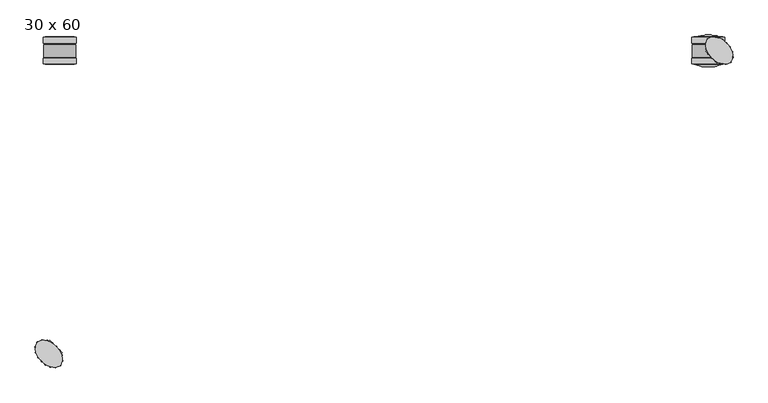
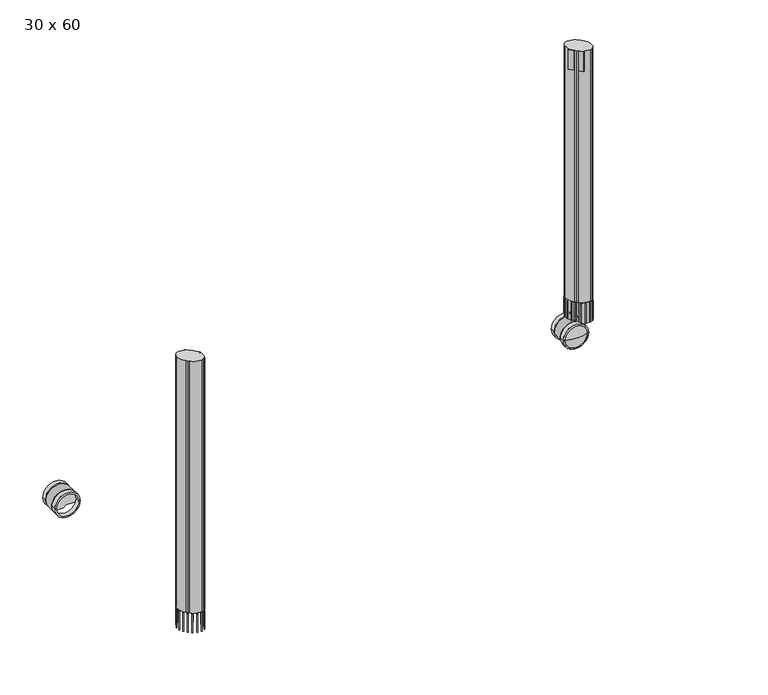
"""IFC4 building model written with IfcOpenShell, lengths in millimetres: furniture geometry, SmithSystem_AM_Desking_Education_Interchange_Student_Activity : 30 x 60."""

from ifc_helpers import new_model, si_unit, point, frame, frame_2d, origin, place, context, project, spatial, polyline, circle_curve, ellipse_curve, trimmed, segment, composite_curve, outline, extrude, source, transform, mapped, element, save
from ifc_brep_helpers import plane_surface, cylinder_surface, revolved_surface, advanced_brep


def furniture_30_x_60_e347a391(model_context):
    return source(origin(), model_context, "Body", "SolidModel", [
        extrude(outline(composite_curve([segment(polyline([(35.2157999, -716.8032652), (36.1138255, -717.7012908), (37.0118511, -718.5993164)]), True, "CONTINUOUS"), segment(trimmed(circle_curve(frame_2d((36.1138255, -717.7012908)), 1.27), [point((37.0118511, -718.5993164))], [point((35.2157999, -716.8032652))], False, "CARTESIAN"), True, "CONTINUOUS")], self_intersect=False)), frame((0.0, 0.0, 67.2639757), z_axis=(0.0, 0.0, 1.0), x_axis=(1.0, 0.0, 0.0)), (0.0, 0.0, 1.0), 52.9554897),
        extrude(outline(composite_curve([segment(polyline([(28.1764663, -677.4423306), (27.2784407, -678.3403563), (26.3804151, -679.2383819)]), True, "CONTINUOUS"), segment(trimmed(circle_curve(frame_2d((27.2784407, -678.3403563)), 1.27), [point((26.3804151, -679.2383819))], [point((28.1764663, -677.4423306))], False, "CARTESIAN"), True, "CONTINUOUS")], self_intersect=False)), frame((0.0, 0.0, 67.2639757), z_axis=(0.0, 0.0, 1.0), x_axis=(1.0, 0.0, 0.0)), (0.0, 0.0, 1.0), 52.9554897),
        extrude(outline(composite_curve([segment(trimmed(circle_curve(frame_2d((75.47476, -726.5366756)), 1.27), [point((76.3727856, -725.63865))], [point((74.5767344, -727.4347012))], False, "CARTESIAN"), True, "CONTINUOUS"), segment(polyline([(74.5767344, -727.4347012), (75.47476, -726.5366756), (76.3727856, -725.63865)]), True, "CONTINUOUS")], self_intersect=False)), frame((0.0, 0.0, 67.2639757), z_axis=(0.0, 0.0, 1.0), x_axis=(1.0, 0.0, 0.0)), (0.0, 0.0, 1.0), 52.9554897),
        extrude(outline(composite_curve([segment(trimmed(circle_curve(frame_2d((65.6084721, -730.6574596)), 1.27), [point((66.874417, -730.5560515))], [point((64.3425272, -730.7588676))], False, "CARTESIAN"), True, "CONTINUOUS"), segment(polyline([(64.3425272, -730.7588676), (65.6084721, -730.6574596), (66.874417, -730.5560515)]), True, "CONTINUOUS")], self_intersect=False)), frame((0.0, 0.0, 67.2639757), z_axis=(0.0, 0.0, 1.0), x_axis=(1.0, 0.0, 0.0)), (0.0, 0.0, 1.0), 52.9554897),
        extrude(outline(composite_curve([segment(trimmed(circle_curve(frame_2d((54.5655031, -729.7234059)), 1.27), [point((55.7954927, -730.039674))], [point((53.3355135, -729.4071377))], False, "CARTESIAN"), True, "CONTINUOUS"), segment(polyline([(53.3355135, -729.4071377), (54.5655031, -729.7234059), (55.7954927, -730.039674)]), True, "CONTINUOUS")], self_intersect=False)), frame((0.0, 0.0, 67.2639757), z_axis=(0.0, 0.0, 1.0), x_axis=(1.0, 0.0, 0.0)), (0.0, 0.0, 1.0), 52.9554897),
        extrude(outline(composite_curve([segment(trimmed(circle_curve(frame_2d((44.409403, -725.1239568)), 1.27), [point((45.4570451, -725.8418329))], [point((43.3617609, -724.4060807))], False, "CARTESIAN"), True, "CONTINUOUS"), segment(polyline([(43.3617609, -724.4060807), (44.409403, -725.1239568), (45.4570451, -725.8418329)]), True, "CONTINUOUS")], self_intersect=False)), frame((0.0, 0.0, 67.2639757), z_axis=(0.0, 0.0, 1.0), x_axis=(1.0, 0.0, 0.0)), (0.0, 0.0, 1.0), 52.9554897),
        extrude(outline(composite_curve([segment(polyline([(23.2590648, -686.9406993), (23.1576567, -688.2066442), (23.0562487, -689.4725891)]), True, "CONTINUOUS"), segment(trimmed(circle_curve(frame_2d((23.1576567, -688.2066442)), 1.27), [point((23.0562487, -689.4725891))], [point((23.2590648, -686.9406993))], False, "CARTESIAN"), True, "CONTINUOUS")], self_intersect=False)), frame((0.0, 0.0, 67.2639757), z_axis=(0.0, 0.0, 1.0), x_axis=(1.0, 0.0, 0.0)), (0.0, 0.0, 1.0), 52.9554897),
        extrude(outline(composite_curve([segment(polyline([(23.7754423, -698.0196236), (24.0917104, -699.2496132), (24.4079786, -700.4796028)]), True, "CONTINUOUS"), segment(trimmed(circle_curve(frame_2d((24.0917104, -699.2496132)), 1.27), [point((24.4079786, -700.4796028))], [point((23.7754423, -698.0196236))], False, "CARTESIAN"), True, "CONTINUOUS")], self_intersect=False)), frame((0.0, 0.0, 67.2639757), z_axis=(0.0, 0.0, 1.0), x_axis=(1.0, 0.0, 0.0)), (0.0, 0.0, 1.0), 52.9554897),
        extrude(outline(composite_curve([segment(polyline([(27.9732834, -708.3580712), (28.6911595, -709.4057133), (29.4090356, -710.4533554)]), True, "CONTINUOUS"), segment(trimmed(circle_curve(frame_2d((28.6911595, -709.4057133)), 1.27), [point((29.4090356, -710.4533554))], [point((27.9732834, -708.3580712))], False, "CARTESIAN"), True, "CONTINUOUS")], self_intersect=False)), frame((0.0, 0.0, 67.2639757), z_axis=(0.0, 0.0, 1.0), x_axis=(1.0, 0.0, 0.0)), (0.0, 0.0, 1.0), 52.9554897),
        extrude(outline(composite_curve([segment(trimmed(circle_curve(frame_2d((66.6393752, -687.175741)), 1.27), [point((65.7413496, -686.2777154))], [point((67.5374009, -688.0737667))], False, "CARTESIAN"), True, "CONTINUOUS"), segment(polyline([(67.5374009, -688.0737667), (66.6393752, -687.175741), (65.7413496, -686.2777154)]), True, "CONTINUOUS")], self_intersect=False)), frame((0.0, 0.0, 67.2639757), z_axis=(0.0, 0.0, 1.0), x_axis=(1.0, 0.0, 0.0)), (0.0, 0.0, 1.0), 52.9554897),
        extrude(outline(composite_curve([segment(polyline([(79.4941359, -717.9363325), (79.595544, -716.6703877), (79.696952, -715.4044428)]), True, "CONTINUOUS"), segment(trimmed(circle_curve(frame_2d((79.595544, -716.6703877)), 1.27), [point((79.696952, -715.4044428))], [point((79.4941359, -717.9363325))], False, "CARTESIAN"), True, "CONTINUOUS")], self_intersect=False)), frame((0.0, 0.0, 67.2639757), z_axis=(0.0, 0.0, 1.0), x_axis=(1.0, 0.0, 0.0)), (0.0, 0.0, 1.0), 52.9554897),
        extrude(outline(composite_curve([segment(polyline([(78.9777584, -706.8574083), (78.6614903, -705.6274187), (78.3452221, -704.397429)]), True, "CONTINUOUS"), segment(trimmed(circle_curve(frame_2d((78.6614903, -705.6274187)), 1.27), [point((78.3452221, -704.397429))], [point((78.9777584, -706.8574083))], False, "CARTESIAN"), True, "CONTINUOUS")], self_intersect=False)), frame((0.0, 0.0, 67.2639757), z_axis=(0.0, 0.0, 1.0), x_axis=(1.0, 0.0, 0.0)), (0.0, 0.0, 1.0), 52.9554897),
        extrude(outline(composite_curve([segment(polyline([(74.7799173, -696.5189606), (74.0620412, -695.4713185), (73.3441651, -694.4236765)]), True, "CONTINUOUS"), segment(trimmed(circle_curve(frame_2d((74.0620412, -695.4713185)), 1.27), [point((73.3441651, -694.4236765))], [point((74.7799173, -696.5189606))], False, "CARTESIAN"), True, "CONTINUOUS")], self_intersect=False)), frame((0.0, 0.0, 67.2639757), z_axis=(0.0, 0.0, 1.0), x_axis=(1.0, 0.0, 0.0)), (0.0, 0.0, 1.0), 52.9554897),
        extrude(outline(composite_curve([segment(trimmed(circle_curve(frame_2d((37.1447286, -674.2195723)), 1.27), [point((35.8787838, -674.3209803))], [point((38.4106735, -674.1181643))], False, "CARTESIAN"), True, "CONTINUOUS"), segment(polyline([(38.4106735, -674.1181643), (37.1447286, -674.2195723), (35.8787838, -674.3209803)]), True, "CONTINUOUS")], self_intersect=False)), frame((0.0, 0.0, 67.2639757), z_axis=(0.0, 0.0, 1.0), x_axis=(1.0, 0.0, 0.0)), (0.0, 0.0, 1.0), 52.9554897),
        extrude(outline(composite_curve([segment(trimmed(circle_curve(frame_2d((48.1876976, -675.153626)), 1.27), [point((46.957708, -674.8373578))], [point((49.4176872, -675.4698941))], False, "CARTESIAN"), True, "CONTINUOUS"), segment(polyline([(49.4176872, -675.4698941), (48.1876976, -675.153626), (46.957708, -674.8373578)]), True, "CONTINUOUS")], self_intersect=False)), frame((0.0, 0.0, 67.2639757), z_axis=(0.0, 0.0, 1.0), x_axis=(1.0, 0.0, 0.0)), (0.0, 0.0, 1.0), 52.9554897),
        extrude(outline(composite_curve([segment(trimmed(circle_curve(frame_2d((58.3437977, -679.7530751)), 1.27), [point((57.2961557, -679.035199))], [point((59.3914398, -680.4709511))], False, "CARTESIAN"), True, "CONTINUOUS"), segment(polyline([(59.3914398, -680.4709511), (58.3437977, -679.7530751), (57.2961557, -679.035199)]), True, "CONTINUOUS")], self_intersect=False)), frame((0.0, 0.0, 67.2639757), z_axis=(0.0, 0.0, 1.0), x_axis=(1.0, 0.0, 0.0)), (0.0, 0.0, 1.0), 52.9554897),
        extrude(outline(composite_curve([segment(polyline([(39.7059279, -721.2933933), (36.1138255, -717.7012908), (32.521723, -714.1091884)]), True, "CONTINUOUS"), segment(trimmed(circle_curve(frame_2d((55.5631798, -691.0677316)), 32.5855406), [point((32.521723, -714.1091884))], [point((23.2205268, -687.0965532))], False, "CARTESIAN"), True, "CONTINUOUS"), segment(trimmed(circle_curve(frame_2d((42.7484708, -689.4942832)), 19.6745954), [point((23.2205268, -687.0965532))], [point((24.5804804, -681.943533))], False, "CARTESIAN"), True, "CONTINUOUS"), segment(trimmed(circle_curve(frame_2d((32.8461036, -685.3787867)), 8.9510611), [point((24.5804804, -681.943533))], [point((26.5167476, -679.0494307))], False, "CARTESIAN"), True, "CONTINUOUS"), segment(polyline([(26.5167476, -679.0494307), (27.2521313, -678.3140469), (27.9875151, -677.5786631)]), True, "CONTINUOUS"), segment(trimmed(circle_curve(frame_2d((34.3168711, -683.9080191)), 8.9510611), [point((27.9875151, -677.5786631))], [point((30.8816174, -675.6423959))], False, "CARTESIAN"), True, "CONTINUOUS"), segment(trimmed(circle_curve(frame_2d((38.4323677, -693.8103864)), 19.6745954), [point((30.8816174, -675.6423959))], [point((36.0346376, -674.2824424))], False, "CARTESIAN"), True, "CONTINUOUS"), segment(trimmed(circle_curve(frame_2d((40.0058161, -706.6250953)), 32.5855406), [point((36.0346376, -674.2824424))], [point((63.0472728, -683.5836386))], False, "CARTESIAN"), True, "CONTINUOUS"), segment(polyline([(63.0472728, -683.5836386), (66.6393752, -687.175741), (70.2314777, -690.7678435)]), True, "CONTINUOUS"), segment(trimmed(circle_curve(frame_2d((47.190021, -713.8093002)), 32.5855406), [point((70.2314777, -690.7678435))], [point((79.5326739, -717.7804787))], False, "CARTESIAN"), True, "CONTINUOUS"), segment(trimmed(circle_curve(frame_2d((60.0047299, -715.3827486)), 19.6745954), [point((79.5326739, -717.7804787))], [point((78.1727203, -722.9334989))], False, "CARTESIAN"), True, "CONTINUOUS"), segment(trimmed(circle_curve(frame_2d((69.9070972, -719.4982452)), 8.9510611), [point((78.1727203, -722.9334989))], [point((76.2364532, -725.8276012))], False, "CARTESIAN"), True, "CONTINUOUS"), segment(polyline([(76.2364532, -725.8276012), (75.5010694, -726.5629849), (74.7656856, -727.2983687)]), True, "CONTINUOUS"), segment(trimmed(circle_curve(frame_2d((68.4363296, -720.9690127)), 8.9510611), [point((74.7656856, -727.2983687))], [point((71.8715833, -729.2346359))], False, "CARTESIAN"), True, "CONTINUOUS"), segment(trimmed(circle_curve(frame_2d((64.3208331, -711.0666455)), 19.6745954), [point((71.8715833, -729.2346359))], [point((66.7185631, -730.5945895))], False, "CARTESIAN"), True, "CONTINUOUS"), segment(trimmed(circle_curve(frame_2d((62.7473847, -698.2519365)), 32.5855406), [point((66.7185631, -730.5945895))], [point((39.7059279, -721.2933933))], False, "CARTESIAN"), True, "CONTINUOUS")], self_intersect=False)), frame((0.0, 0.0, 122.9260451), z_axis=(0.0, 0.0, 1.0), x_axis=(1.0, 0.0, 0.0)), (0.0, 0.0, 1.0), 719.5839191),
        extrude(outline(polyline([(50.0797748, -676.8390473), (53.4246351, -673.4941871), (80.2662632, -700.3358152), (76.921403, -703.6806755), (50.0797748, -676.8390473)])), frame((0.0, 0.0, 786.4834421), z_axis=(0.0, 0.0, 1.0), x_axis=(1.0, 0.0, 0.0)), (0.0, 0.0, 1.0), 56.0265221),
        advanced_brep(
        [(1479.3682807, -75.4828432, 35.017382), (1418.7629669, -75.4828432, 35.017382), (1418.7629669, -88.7241133, 35.017382), (1479.3682807, -88.7241133, 35.017382), (1483.6326573, -75.4828432, 35.017382), (1414.4985903, -75.4828432, 35.017382), (1483.6326573, -87.2525266, 35.017382), (1414.4985903, -87.2525266, 35.017382)],
        [
            (0, 1, circle_curve(frame((1449.0656238, -75.4828432, 35.017382), z_axis=(0.0, 1.0, 0.0), x_axis=(-1.0000000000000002, 0.0, 0.0)), 30.3026569)),
            (1, 2),
            (2, 3, circle_curve(frame((1449.0656238, -88.7241133, 35.017382), z_axis=(0.0, -1.0, 0.0), x_axis=(-1.0000000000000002, 0.0, 0.0)), 30.3026569)),
            (3, 0),
            (1, 0, circle_curve(frame((1449.0656238, -75.4828432, 35.017382), z_axis=(0.0, 1.0, 0.0), x_axis=(-1.0000000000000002, 0.0, 0.0)), 30.3026569)),
            (3, 2, circle_curve(frame((1449.0656238, -88.7241133, 35.017382), z_axis=(0.0, -1.0, 0.0), x_axis=(-1.0000000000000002, 0.0, 0.0)), 30.3026569)),
            (4, 5, circle_curve(frame((1449.0656238, -75.4828432, 35.017382), z_axis=(0.0, 1.0, 0.0), x_axis=(-1.0000000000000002, 0.0, 0.0)), 34.5670335)),
            (5, 1),
            (0, 4),
            (5, 4, circle_curve(frame((1449.0656238, -75.4828432, 35.017382), z_axis=(0.0, 1.0, 0.0), x_axis=(-1.0000000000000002, 0.0, 0.0)), 34.5670335)),
            (6, 7, circle_curve(frame((1449.0656238, -87.2525266, 35.017382), z_axis=(0.0, 1.0, 0.0), x_axis=(-1.0000000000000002, 0.0, 0.0)), 34.5670335)),
            (7, 5),
            (4, 6),
            (7, 6, circle_curve(frame((1449.0656238, -87.2525266, 35.017382), z_axis=(0.0, 1.0, 0.0), x_axis=(-1.0000000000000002, 0.0, 0.0)), 34.5670335)),
            (2, 7),
            (6, 3),
        ],
        [
            revolved_surface(polyline([(1418.7629668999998, -88.7241133, 35.017382), (1418.7629668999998, -75.4828432, 35.017382)]), (1449.0656238, -75.4828432, 35.017382), (0.0, -1.0, 0.0)),
            plane_surface(frame((1449.0656238, -75.4828432, 35.017382), z_axis=(0.0, 1.0, 0.0), x_axis=(-1.0, 0.0, 0.0))),
            cylinder_surface(frame((1449.0656238, -75.4828432, 35.017382), z_axis=(0.0, -1.0, 0.0), x_axis=(-1.0000000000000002, 0.0, 0.0)), 34.5670335),
            revolved_surface(polyline([(1414.4985903, -87.2525266, 35.017382), (1418.7629669, -88.7241133, 35.017382)]), (1449.0656238, -75.4828432, 35.017382), (0.0, -1.0, 0.0)),
        ],
        [
            (0, [[1, 2, 3, 4]]),
            (0, [[5, -4, 6, -2]]),
            (1, [[7, 8, -1, 9]]),
            (1, [[10, -9, -5, -8]]),
            (2, [[11, 12, -7, 13]]),
            (2, [[14, -13, -10, -12]]),
            (3, [[-3, 15, -11, 16]]),
            (3, [[-6, -16, -14, -15]]),
        ],
    ),
        advanced_brep(
        [(1483.6326573, -31.8704415, 35.017382), (1414.4985903, -31.8704415, 35.017382), (1418.7629669, -30.3988548, 35.017382), (1479.3682807, -30.3988548, 35.017382), (1483.6326573, -43.6401249, 35.017382), (1414.4985903, -43.6401249, 35.017382), (1479.3682807, -43.6401249, 35.017382), (1418.7629669, -43.6401249, 35.017382)],
        [
            (0, 1, circle_curve(frame((1449.0656238, -31.8704415, 35.017382), z_axis=(0.0, 1.0, 0.0), x_axis=(-1.0000000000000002, 0.0, 0.0)), 34.5670335)),
            (1, 2),
            (2, 3, circle_curve(frame((1449.0656238, -30.3988548, 35.017382), z_axis=(0.0, -1.0, 0.0), x_axis=(-1.0000000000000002, 0.0, 0.0)), 30.3026569)),
            (3, 0),
            (1, 0, circle_curve(frame((1449.0656238, -31.8704415, 35.017382), z_axis=(0.0, 1.0, 0.0), x_axis=(-1.0000000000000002, 0.0, 0.0)), 34.5670335)),
            (3, 2, circle_curve(frame((1449.0656238, -30.3988548, 35.017382), z_axis=(0.0, -1.0, 0.0), x_axis=(-1.0000000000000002, 0.0, 0.0)), 30.3026569)),
            (4, 5, circle_curve(frame((1449.0656238, -43.6401249, 35.017382), z_axis=(0.0, 1.0, 0.0), x_axis=(-1.0000000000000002, 0.0, 0.0)), 34.5670335)),
            (5, 1),
            (0, 4),
            (5, 4, circle_curve(frame((1449.0656238, -43.6401249, 35.017382), z_axis=(0.0, 1.0, 0.0), x_axis=(-1.0000000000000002, 0.0, 0.0)), 34.5670335)),
            (6, 7, circle_curve(frame((1449.0656238, -43.6401249, 35.017382), z_axis=(0.0, 1.0, 0.0), x_axis=(-1.0000000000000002, 0.0, 0.0)), 30.3026569)),
            (7, 5),
            (4, 6),
            (7, 6, circle_curve(frame((1449.0656238, -43.6401249, 35.017382), z_axis=(0.0, 1.0, 0.0), x_axis=(-1.0000000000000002, 0.0, 0.0)), 30.3026569)),
            (2, 7),
            (6, 3),
        ],
        [
            revolved_surface(polyline([(1418.7629669, -30.3988548, 35.017382), (1414.4985903, -31.8704415, 35.017382)]), (1449.0656238, -75.4828432, 35.017382), (0.0, -1.0, 0.0)),
            cylinder_surface(frame((1449.0656238, -75.4828432, 35.017382), z_axis=(0.0, -1.0, 0.0), x_axis=(-1.0000000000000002, 0.0, 0.0)), 34.5670335),
            plane_surface(frame((1449.0656238, -43.6401249, 35.017382), z_axis=(0.0, -1.0, 0.0), x_axis=(-1.0, 0.0, 0.0))),
            revolved_surface(polyline([(1418.7629668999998, -43.6401249, 35.017382), (1418.7629668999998, -30.398854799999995, 35.017382)]), (1449.0656238, -75.4828432, 35.017382), (0.0, -1.0, 0.0)),
        ],
        [
            (0, [[1, 2, 3, 4]]),
            (0, [[5, -4, 6, -2]]),
            (1, [[7, 8, -1, 9]]),
            (1, [[10, -9, -5, -8]]),
            (2, [[11, 12, -7, 13]]),
            (2, [[14, -13, -10, -12]]),
            (3, [[-3, 15, -11, 16]]),
            (3, [[-6, -16, -14, -15]]),
        ],
    ),
        extrude(outline(composite_curve([segment(polyline([(19.2150301, 1452.4697558), (19.2150301, 1479.476395)]), True, "CONTINUOUS"), segment(trimmed(circle_curve(frame_2d((35.017382, 1449.0656238)), 34.2714069), [point((19.2150301, 1479.476395))], [point((30.4371053, 1415.1016665))], False, "CARTESIAN"), True, "CONTINUOUS"), segment(polyline([(30.4371053, 1415.1016665), (25.5146264, 1423.9644339), (25.5146264, 1446.1701594), (19.2150301, 1452.4697558)]), True, "CONTINUOUS")], self_intersect=False)), frame((0.0, -73.7527481, 0.0), z_axis=(0.0, 1.0, 0.0), x_axis=(0.0, 0.0, 1.0)), (0.0, 0.0, 1.0), 26.9875),
        advanced_brep(
        [(1479.3682807, -75.4828432, 35.017382), (1418.7629669, -75.4828432, 35.017382), (1449.0656238, -75.4828432, 35.017382), (1449.0656238, -93.8056302, 35.017382), (1418.7629669, -88.7241133, 35.017382), (1479.3682807, -88.7241133, 35.017382)],
        [
            (0, 1, circle_curve(frame((1449.0656238, -75.4828432, 35.017382), z_axis=(0.0, 1.0, 0.0), x_axis=(-1.0000000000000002, 0.0, 0.0)), 30.3026569)),
            (1, 2),
            (2, 0),
            (1, 0, circle_curve(frame((1449.0656238, -75.4828432, 35.017382), z_axis=(0.0, 1.0, 0.0), x_axis=(-1.0000000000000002, 0.0, 0.0)), 30.3026569)),
            (3, 4, circle_curve(frame((1449.0656238, -0.9128138, 35.017382), z_axis=(0.0, 0.0, -1.0000000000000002), x_axis=(0.0, 1.0, 0.0)), 92.8928164)),
            (4, 5, circle_curve(frame((1449.0656238, -88.7241133, 35.017382), z_axis=(0.0, -1.0, 0.0), x_axis=(-1.0000000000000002, 0.0, 0.0)), 30.3026569)),
            (5, 3, circle_curve(frame((1449.0656238, -0.9128138, 35.017382), z_axis=(0.0, 0.0, -1.0000000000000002), x_axis=(0.0, 1.0, 0.0)), 92.8928164)),
            (5, 4, circle_curve(frame((1449.0656238, -88.7241133, 35.017382), z_axis=(0.0, -1.0, 0.0), x_axis=(-1.0000000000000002, 0.0, 0.0)), 30.3026569)),
            (4, 1),
            (0, 5),
        ],
        [
            plane_surface(frame((1449.0656238, -75.4828432, 35.017382), z_axis=(0.0, 1.0, 0.0), x_axis=(-1.0, 0.0, 0.0))),
            revolved_surface(trimmed(ellipse_curve(frame((1449.0656238, -0.9128138, 35.017382), z_axis=(0.0, 0.0, 1.0000000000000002), x_axis=(0.0, 1.0, 0.0)), 92.8928164, 92.8928164), [point((1418.7629669, -88.7241133, 35.017382))], [point((1449.0656238, -93.8056302, 35.017382))], True, "CARTESIAN"), (1449.0656238, -75.4828432, 35.017382), (0.0, -1.0, 0.0)),
            cylinder_surface(frame((1449.0656238, -75.4828432, 35.017382), z_axis=(0.0, -1.0, 0.0), x_axis=(-1.0000000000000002, 0.0, 0.0)), 30.3026569),
        ],
        [
            (0, [[1, 2, 3]]),
            (0, [[4, -3, -2]]),
            (1, [[5, 6, 7]]),
            (1, [[-7, 8, -5]]),
            (2, [[-6, 9, -1, 10]]),
            (2, [[-8, -10, -4, -9]]),
        ],
    ),
        advanced_brep(
        [(1479.3682807, -44.8805061, 35.017382), (1418.7629669, -44.8805061, 35.017382), (1418.7629669, -31.639236, 35.017382), (1479.3682807, -31.639236, 35.017382), (1449.0656238, -26.5577191, 35.017382), (1449.0656238, -44.8805061, 35.017382)],
        [
            (0, 1, circle_curve(frame((1449.0656238, -44.8805061, 35.017382), z_axis=(0.0, 1.0, 0.0), x_axis=(-1.0000000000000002, 0.0, 0.0)), 30.3026569)),
            (1, 2),
            (2, 3, circle_curve(frame((1449.0656238, -31.639236, 35.017382), z_axis=(0.0, -1.0, 0.0), x_axis=(-1.0000000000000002, 0.0, 0.0)), 30.3026569)),
            (3, 0),
            (1, 0, circle_curve(frame((1449.0656238, -44.8805061, 35.017382), z_axis=(0.0, 1.0, 0.0), x_axis=(-1.0000000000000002, 0.0, 0.0)), 30.3026569)),
            (3, 2, circle_curve(frame((1449.0656238, -31.639236, 35.017382), z_axis=(0.0, -1.0, 0.0), x_axis=(-1.0000000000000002, 0.0, 0.0)), 30.3026569)),
            (2, 4, circle_curve(frame((1449.0656238, -119.4505355, 35.017382), z_axis=(0.0, 0.0, -1.0000000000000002), x_axis=(0.0, 1.0, 0.0)), 92.8928164)),
            (4, 3, circle_curve(frame((1449.0656238, -119.4505355, 35.017382), z_axis=(0.0, 0.0, -1.0000000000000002), x_axis=(0.0, 1.0, 0.0)), 92.8928164)),
            (5, 1),
            (0, 5),
        ],
        [
            cylinder_surface(frame((1449.0656238, -75.4828432, 35.017382), z_axis=(0.0, -1.0, 0.0), x_axis=(-1.0000000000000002, 0.0, 0.0)), 30.3026569),
            revolved_surface(trimmed(ellipse_curve(frame((1449.0656238, -119.4505355, 35.017382), z_axis=(0.0, 0.0, 1.0000000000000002), x_axis=(0.0, 1.0, 0.0)), 92.8928164, 92.8928164), [point((1449.0656238, -26.5577191, 35.017382))], [point((1418.7629669, -31.639236, 35.017382))], True, "CARTESIAN"), (1449.0656238, -75.4828432, 35.017382), (0.0, -1.0, 0.0)),
            plane_surface(frame((1449.0656238, -44.8805061, 35.017382), z_axis=(0.0, -1.0, 0.0), x_axis=(-1.0, 0.0, 0.0))),
        ],
        [
            (0, [[1, 2, 3, 4]]),
            (0, [[5, -4, 6, -2]]),
            (1, [[-3, 7, 8]]),
            (1, [[-6, -8, -7]]),
            (2, [[9, -1, 10]]),
            (2, [[-10, -5, -9]]),
        ],
    ),
        advanced_brep(
        [(1472.3098504, -59.5614841, 82.55), (1457.1881611, -74.6831734, 82.55), (1487.4315397, -44.4397948, 82.55), (1479.1455485, -52.725786, 44.141232), (1465.4741524, -66.3971821, 44.141232), (1472.3098504, -59.5614841, 44.141232), (1479.1455485, -52.725786, 70.5739), (1465.4741524, -66.3971821, 70.5739), (1475.4087581, -56.4625764, 70.5739), (1469.2109428, -62.6603917, 70.5739), (1475.4087581, -56.4625764, 72.4789), (1469.2109428, -62.6603917, 72.4789), (1479.1455485, -52.725786, 72.4789), (1465.4741524, -66.3971821, 72.4789), (1479.1455485, -52.725786, 77.5589), (1465.4741524, -66.3971821, 77.5589), (1487.4315397, -44.4397948, 77.5589), (1457.1881611, -74.6831734, 77.5589)],
        [
            (0, 1),
            (1, 2, circle_curve(frame((1472.3098504, -59.5614841, 82.55), z_axis=(0.0, 0.0, 1.0), x_axis=(-0.7071067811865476, -0.7071067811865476, 0.0)), 21.3852981)),
            (2, 0),
            (2, 1, circle_curve(frame((1472.3098504, -59.5614841, 82.55), z_axis=(0.0, 0.0, 1.0), x_axis=(-0.7071067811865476, -0.7071067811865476, 0.0)), 21.3852981)),
            (3, 4, circle_curve(frame((1472.3098504, -59.5614841, 44.141232), z_axis=(0.0, 0.0, -1.0), x_axis=(-0.7071067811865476, -0.7071067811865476, 0.0)), 9.6671369)),
            (4, 5),
            (5, 3),
            (4, 3, circle_curve(frame((1472.3098504, -59.5614841, 44.141232), z_axis=(0.0, 0.0, -1.0), x_axis=(-0.7071067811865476, -0.7071067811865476, 0.0)), 9.6671369)),
            (6, 7, circle_curve(frame((1472.3098504, -59.5614841, 70.5739), z_axis=(0.0, 0.0, -1.0), x_axis=(-0.7071067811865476, -0.7071067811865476, 0.0)), 9.6671369)),
            (7, 4),
            (3, 6),
            (7, 6, circle_curve(frame((1472.3098504, -59.5614841, 70.5739), z_axis=(0.0, 0.0, -1.0), x_axis=(-0.7071067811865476, -0.7071067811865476, 0.0)), 9.6671369)),
            (8, 9, circle_curve(frame((1472.3098504, -59.5614841, 70.5739), z_axis=(0.0, 0.0, -1.0), x_axis=(-0.7071067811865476, -0.7071067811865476, 0.0)), 4.3825172)),
            (9, 7),
            (6, 8),
            (9, 8, circle_curve(frame((1472.3098504, -59.5614841, 70.5739), z_axis=(0.0, 0.0, -1.0), x_axis=(-0.7071067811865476, -0.7071067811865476, 0.0)), 4.3825172)),
            (10, 11, circle_curve(frame((1472.3098504, -59.5614841, 72.4789), z_axis=(0.0, 0.0, -1.0), x_axis=(-0.7071067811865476, -0.7071067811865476, 0.0)), 4.3825172)),
            (11, 9),
            (8, 10),
            (11, 10, circle_curve(frame((1472.3098504, -59.5614841, 72.4789), z_axis=(0.0, 0.0, -1.0), x_axis=(-0.7071067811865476, -0.7071067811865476, 0.0)), 4.3825172)),
            (12, 13, circle_curve(frame((1472.3098504, -59.5614841, 72.4789), z_axis=(0.0, 0.0, -1.0), x_axis=(-0.7071067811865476, -0.7071067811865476, 0.0)), 9.6671369)),
            (13, 11),
            (10, 12),
            (13, 12, circle_curve(frame((1472.3098504, -59.5614841, 72.4789), z_axis=(0.0, 0.0, -1.0), x_axis=(-0.7071067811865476, -0.7071067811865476, 0.0)), 9.6671369)),
            (14, 15, circle_curve(frame((1472.3098504, -59.5614841, 77.5589), z_axis=(0.0, 0.0, -1.0), x_axis=(-0.7071067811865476, -0.7071067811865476, 0.0)), 9.6671369)),
            (15, 13),
            (12, 14),
            (15, 14, circle_curve(frame((1472.3098504, -59.5614841, 77.5589), z_axis=(0.0, 0.0, -1.0), x_axis=(-0.7071067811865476, -0.7071067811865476, 0.0)), 9.6671369)),
            (16, 17, circle_curve(frame((1472.3098504, -59.5614841, 77.5589), z_axis=(0.0, 0.0, -1.0), x_axis=(-0.7071067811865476, -0.7071067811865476, 0.0)), 21.3852981)),
            (17, 15),
            (14, 16),
            (17, 16, circle_curve(frame((1472.3098504, -59.5614841, 77.5589), z_axis=(0.0, 0.0, -1.0), x_axis=(-0.7071067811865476, -0.7071067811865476, 0.0)), 21.3852981)),
            (1, 17),
            (16, 2),
        ],
        [
            plane_surface(frame((1472.3098504, -59.5614841, 82.55), z_axis=(0.0, 0.0, 1.0000000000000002), x_axis=(-0.7071067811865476, -0.7071067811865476, 0.0))),
            plane_surface(frame((1472.3098504, -59.5614841, 44.141232), z_axis=(0.0, 0.0, -1.0000000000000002), x_axis=(-0.7071067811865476, -0.7071067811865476, 0.0))),
            cylinder_surface(frame((1472.3098504, -59.5614841, 56.841232), z_axis=(0.0, 0.0, 1.0), x_axis=(-0.7071067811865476, -0.7071067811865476, 0.0)), 9.6671369),
            plane_surface(frame((1472.3098504, -59.5614841, 70.5739), z_axis=(0.0, 0.0, 1.0000000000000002), x_axis=(-0.7071067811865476, -0.7071067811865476, 0.0))),
            cylinder_surface(frame((1472.3098504, -59.5614841, 56.841232), z_axis=(0.0, 0.0, 1.0), x_axis=(-0.7071067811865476, -0.7071067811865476, 0.0)), 4.3825172),
            plane_surface(frame((1472.3098504, -59.5614841, 72.4789), z_axis=(0.0, 0.0, -1.0000000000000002), x_axis=(-0.7071067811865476, -0.7071067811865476, 0.0))),
            plane_surface(frame((1472.3098504, -59.5614841, 77.5589), z_axis=(0.0, 0.0, -1.0000000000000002), x_axis=(-0.7071067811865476, -0.7071067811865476, 0.0))),
            cylinder_surface(frame((1472.3098504, -59.5614841, 56.841232), z_axis=(0.0, 0.0, 1.0), x_axis=(-0.7071067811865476, -0.7071067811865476, 0.0)), 21.3852981),
        ],
        [
            (0, [[1, 2, 3]]),
            (0, [[-3, 4, -1]]),
            (1, [[5, 6, 7]]),
            (1, [[8, -7, -6]]),
            (2, [[9, 10, -5, 11]]),
            (2, [[12, -11, -8, -10]]),
            (3, [[13, 14, -9, 15]]),
            (3, [[16, -15, -12, -14]]),
            (4, [[17, 18, -13, 19]]),
            (4, [[20, -19, -16, -18]]),
            (5, [[21, 22, -17, 23]]),
            (5, [[24, -23, -20, -22]]),
            (2, [[25, 26, -21, 27]]),
            (2, [[28, -27, -24, -26]]),
            (6, [[29, 30, -25, 31]]),
            (6, [[32, -31, -28, -30]]),
            (7, [[-2, 33, -29, 34]]),
            (7, [[-4, -34, -32, -33]]),
        ],
    ),
        extrude(outline(composite_curve([segment(trimmed(circle_curve(frame_2d((1476.4964298, -48.1906998)), 32.5855406), [point((1453.4549731, -71.2321565))], [point((1444.1537769, -44.2195213))], False, "CARTESIAN"), True, "CONTINUOUS"), segment(trimmed(circle_curve(frame_2d((1463.6817209, -46.6172514)), 19.6745954), [point((1444.1537769, -44.2195213))], [point((1445.5137305, -39.0665011))], False, "CARTESIAN"), True, "CONTINUOUS"), segment(trimmed(circle_curve(frame_2d((1453.7793536, -42.5017548)), 8.9510611), [point((1445.5137305, -39.0665011))], [point((1447.4499976, -36.1723988))], False, "CARTESIAN"), True, "CONTINUOUS"), segment(polyline([(1447.4499976, -36.1723988), (1448.1853814, -35.4370151), (1448.9207652, -34.7016313)]), True, "CONTINUOUS"), segment(trimmed(circle_curve(frame_2d((1455.2501212, -41.0309873)), 8.9510611), [point((1448.9207652, -34.7016313))], [point((1451.8148675, -32.7653641))], False, "CARTESIAN"), True, "CONTINUOUS"), segment(trimmed(circle_curve(frame_2d((1459.3656177, -50.9333545)), 19.6745954), [point((1451.8148675, -32.7653641))], [point((1456.9678877, -31.4054105))], False, "CARTESIAN"), True, "CONTINUOUS"), segment(trimmed(circle_curve(frame_2d((1460.9390661, -63.7480635)), 32.5855406), [point((1456.9678877, -31.4054105))], [point((1483.9805229, -40.7066067))], False, "CARTESIAN"), True, "CONTINUOUS"), segment(polyline([(1483.9805229, -40.7066067), (1487.5726253, -44.2987092), (1491.1647278, -47.8908116)]), True, "CONTINUOUS"), segment(trimmed(circle_curve(frame_2d((1468.123271, -70.9322684)), 32.5855406), [point((1491.1647278, -47.8908116))], [point((1500.465924, -74.9034468))], False, "CARTESIAN"), True, "CONTINUOUS"), segment(trimmed(circle_curve(frame_2d((1480.93798, -72.5057168)), 19.6745954), [point((1500.465924, -74.9034468))], [point((1499.1059704, -80.056467))], False, "CARTESIAN"), True, "CONTINUOUS"), segment(trimmed(circle_curve(frame_2d((1490.8403472, -76.6212133)), 8.9510611), [point((1499.1059704, -80.056467))], [point((1497.1697032, -82.9505693))], False, "CARTESIAN"), True, "CONTINUOUS"), segment(polyline([(1497.1697032, -82.9505693), (1496.4343195, -83.6859531), (1495.6989357, -84.4213369)]), True, "CONTINUOUS"), segment(trimmed(circle_curve(frame_2d((1489.3695797, -78.0919809)), 8.9510611), [point((1495.6989357, -84.4213369))], [point((1492.8048334, -86.3576041))], False, "CARTESIAN"), True, "CONTINUOUS"), segment(trimmed(circle_curve(frame_2d((1485.2540831, -68.1896136)), 19.6745954), [point((1492.8048334, -86.3576041))], [point((1487.6518132, -87.7175576))], False, "CARTESIAN"), True, "CONTINUOUS"), segment(trimmed(circle_curve(frame_2d((1483.6806347, -55.3749047)), 32.5855406), [point((1487.6518132, -87.7175576))], [point((1460.639178, -78.4163614))], False, "CARTESIAN"), True, "CONTINUOUS"), segment(polyline([(1460.639178, -78.4163614), (1457.0470756, -74.824259), (1453.4549731, -71.2321565)]), True, "CONTINUOUS")], self_intersect=False)), frame((0.0, 0.0, 63.4997351), z_axis=(0.0, 0.0, 1.0), x_axis=(1.0, 0.0, 0.0)), (0.0, 0.0, 1.0), 59.42631),
        extrude(outline(composite_curve([segment(polyline([(1488.4706509, -45.1967348), (1487.5726253, -44.2987092), (1486.6745997, -43.4006836)]), True, "CONTINUOUS"), segment(trimmed(circle_curve(frame_2d((1487.5726253, -44.2987092)), 1.27), [point((1486.6745997, -43.4006836))], [point((1488.4706509, -45.1967348))], False, "CARTESIAN"), True, "CONTINUOUS")], self_intersect=False)), frame((0.0, 0.0, 67.2639757), z_axis=(0.0, 0.0, 1.0), x_axis=(1.0, 0.0, 0.0)), (0.0, 0.0, 1.0), 52.9554897),
        extrude(outline(composite_curve([segment(polyline([(1495.5099845, -84.5576694), (1496.4080101, -83.6596437), (1497.3060357, -82.7616181)]), True, "CONTINUOUS"), segment(trimmed(circle_curve(frame_2d((1496.4080101, -83.6596437)), 1.27), [point((1497.3060357, -82.7616181))], [point((1495.5099845, -84.5576694))], False, "CARTESIAN"), True, "CONTINUOUS")], self_intersect=False)), frame((0.0, 0.0, 67.2639757), z_axis=(0.0, 0.0, 1.0), x_axis=(1.0, 0.0, 0.0)), (0.0, 0.0, 1.0), 52.9554897),
        extrude(outline(composite_curve([segment(trimmed(circle_curve(frame_2d((1448.2116908, -35.4633244)), 1.27), [point((1447.3136652, -36.36135))], [point((1449.1097164, -34.5652988))], False, "CARTESIAN"), True, "CONTINUOUS"), segment(polyline([(1449.1097164, -34.5652988), (1448.2116908, -35.4633244), (1447.3136652, -36.36135)]), True, "CONTINUOUS")], self_intersect=False)), frame((0.0, 0.0, 67.2639757), z_axis=(0.0, 0.0, 1.0), x_axis=(1.0, 0.0, 0.0)), (0.0, 0.0, 1.0), 52.9554897),
        extrude(outline(composite_curve([segment(trimmed(circle_curve(frame_2d((1458.0779787, -31.3425404)), 1.27), [point((1456.8120338, -31.4439485))], [point((1459.3439236, -31.2411324))], False, "CARTESIAN"), True, "CONTINUOUS"), segment(polyline([(1459.3439236, -31.2411324), (1458.0779787, -31.3425404), (1456.8120338, -31.4439485)]), True, "CONTINUOUS")], self_intersect=False)), frame((0.0, 0.0, 67.2639757), z_axis=(0.0, 0.0, 1.0), x_axis=(1.0, 0.0, 0.0)), (0.0, 0.0, 1.0), 52.9554897),
        extrude(outline(composite_curve([segment(trimmed(circle_curve(frame_2d((1469.1209477, -32.2765941)), 1.27), [point((1467.8909581, -31.960326))], [point((1470.3509373, -32.5928623))], False, "CARTESIAN"), True, "CONTINUOUS"), segment(polyline([(1470.3509373, -32.5928623), (1469.1209477, -32.2765941), (1467.8909581, -31.960326)]), True, "CONTINUOUS")], self_intersect=False)), frame((0.0, 0.0, 67.2639757), z_axis=(0.0, 0.0, 1.0), x_axis=(1.0, 0.0, 0.0)), (0.0, 0.0, 1.0), 52.9554897),
        extrude(outline(composite_curve([segment(trimmed(circle_curve(frame_2d((1479.2770478, -36.8760432)), 1.27), [point((1478.2294057, -36.1581671))], [point((1480.3246899, -37.5939193))], False, "CARTESIAN"), True, "CONTINUOUS"), segment(polyline([(1480.3246899, -37.5939193), (1479.2770478, -36.8760432), (1478.2294057, -36.1581671)]), True, "CONTINUOUS")], self_intersect=False)), frame((0.0, 0.0, 67.2639757), z_axis=(0.0, 0.0, 1.0), x_axis=(1.0, 0.0, 0.0)), (0.0, 0.0, 1.0), 52.9554897),
        extrude(outline(composite_curve([segment(polyline([(1500.427386, -75.0593007), (1500.5287941, -73.7933558), (1500.6302021, -72.5274109)]), True, "CONTINUOUS"), segment(trimmed(circle_curve(frame_2d((1500.5287941, -73.7933558)), 1.27), [point((1500.6302021, -72.5274109))], [point((1500.427386, -75.0593007))], False, "CARTESIAN"), True, "CONTINUOUS")], self_intersect=False)), frame((0.0, 0.0, 67.2639757), z_axis=(0.0, 0.0, 1.0), x_axis=(1.0, 0.0, 0.0)), (0.0, 0.0, 1.0), 52.9554897),
        extrude(outline(composite_curve([segment(polyline([(1499.9110085, -63.9803764), (1499.5947404, -62.7503868), (1499.2784722, -61.5203972)]), True, "CONTINUOUS"), segment(trimmed(circle_curve(frame_2d((1499.5947404, -62.7503868)), 1.27), [point((1499.2784722, -61.5203972))], [point((1499.9110085, -63.9803764))], False, "CARTESIAN"), True, "CONTINUOUS")], self_intersect=False)), frame((0.0, 0.0, 67.2639757), z_axis=(0.0, 0.0, 1.0), x_axis=(1.0, 0.0, 0.0)), (0.0, 0.0, 1.0), 52.9554897),
        extrude(outline(composite_curve([segment(polyline([(1495.7131674, -53.6419288), (1494.9952913, -52.5942867), (1494.2774152, -51.5466446)]), True, "CONTINUOUS"), segment(trimmed(circle_curve(frame_2d((1494.9952913, -52.5942867)), 1.27), [point((1494.2774152, -51.5466446))], [point((1495.7131674, -53.6419288))], False, "CARTESIAN"), True, "CONTINUOUS")], self_intersect=False)), frame((0.0, 0.0, 67.2639757), z_axis=(0.0, 0.0, 1.0), x_axis=(1.0, 0.0, 0.0)), (0.0, 0.0, 1.0), 52.9554897),
        extrude(outline(composite_curve([segment(trimmed(circle_curve(frame_2d((1457.0470756, -74.824259)), 1.27), [point((1457.9451012, -75.7222846))], [point((1456.1490499, -73.9262333))], False, "CARTESIAN"), True, "CONTINUOUS"), segment(polyline([(1456.1490499, -73.9262333), (1457.0470756, -74.824259), (1457.9451012, -75.7222846)]), True, "CONTINUOUS")], self_intersect=False)), frame((0.0, 0.0, 67.2639757), z_axis=(0.0, 0.0, 1.0), x_axis=(1.0, 0.0, 0.0)), (0.0, 0.0, 1.0), 52.9554897),
        extrude(outline(composite_curve([segment(polyline([(1444.1923149, -44.0636675), (1444.0909068, -45.3296123), (1443.9894988, -46.5955572)]), True, "CONTINUOUS"), segment(trimmed(circle_curve(frame_2d((1444.0909068, -45.3296123)), 1.27), [point((1443.9894988, -46.5955572))], [point((1444.1923149, -44.0636675))], False, "CARTESIAN"), True, "CONTINUOUS")], self_intersect=False)), frame((0.0, 0.0, 67.2639757), z_axis=(0.0, 0.0, 1.0), x_axis=(1.0, 0.0, 0.0)), (0.0, 0.0, 1.0), 52.9554897),
        extrude(outline(composite_curve([segment(polyline([(1444.7086924, -55.1425917), (1445.0249605, -56.3725813), (1445.3412287, -57.602571)]), True, "CONTINUOUS"), segment(trimmed(circle_curve(frame_2d((1445.0249605, -56.3725813)), 1.27), [point((1445.3412287, -57.602571))], [point((1444.7086924, -55.1425917))], False, "CARTESIAN"), True, "CONTINUOUS")], self_intersect=False)), frame((0.0, 0.0, 67.2639757), z_axis=(0.0, 0.0, 1.0), x_axis=(1.0, 0.0, 0.0)), (0.0, 0.0, 1.0), 52.9554897),
        extrude(outline(composite_curve([segment(polyline([(1448.9065335, -65.4810394), (1449.6244096, -66.5286815), (1450.3422857, -67.5763235)]), True, "CONTINUOUS"), segment(trimmed(circle_curve(frame_2d((1449.6244096, -66.5286815)), 1.27), [point((1450.3422857, -67.5763235))], [point((1448.9065335, -65.4810394))], False, "CARTESIAN"), True, "CONTINUOUS")], self_intersect=False)), frame((0.0, 0.0, 67.2639757), z_axis=(0.0, 0.0, 1.0), x_axis=(1.0, 0.0, 0.0)), (0.0, 0.0, 1.0), 52.9554897),
        extrude(outline(composite_curve([segment(trimmed(circle_curve(frame_2d((1486.5417222, -87.7804277)), 1.27), [point((1487.807667, -87.6790197))], [point((1485.2757773, -87.8818357))], False, "CARTESIAN"), True, "CONTINUOUS"), segment(polyline([(1485.2757773, -87.8818357), (1486.5417222, -87.7804277), (1487.807667, -87.6790197)]), True, "CONTINUOUS")], self_intersect=False)), frame((0.0, 0.0, 67.2639757), z_axis=(0.0, 0.0, 1.0), x_axis=(1.0, 0.0, 0.0)), (0.0, 0.0, 1.0), 52.9554897),
        extrude(outline(composite_curve([segment(trimmed(circle_curve(frame_2d((1475.4987532, -86.846374)), 1.27), [point((1476.7287428, -87.1626422))], [point((1474.2687635, -86.5301059))], False, "CARTESIAN"), True, "CONTINUOUS"), segment(polyline([(1474.2687635, -86.5301059), (1475.4987532, -86.846374), (1476.7287428, -87.1626422)]), True, "CONTINUOUS")], self_intersect=False)), frame((0.0, 0.0, 67.2639757), z_axis=(0.0, 0.0, 1.0), x_axis=(1.0, 0.0, 0.0)), (0.0, 0.0, 1.0), 52.9554897),
        extrude(outline(composite_curve([segment(trimmed(circle_curve(frame_2d((1465.3426531, -82.2469249)), 1.27), [point((1466.3902951, -82.964801))], [point((1464.295011, -81.5290489))], False, "CARTESIAN"), True, "CONTINUOUS"), segment(polyline([(1464.295011, -81.5290489), (1465.3426531, -82.2469249), (1466.3902951, -82.964801)]), True, "CONTINUOUS")], self_intersect=False)), frame((0.0, 0.0, 67.2639757), z_axis=(0.0, 0.0, 1.0), x_axis=(1.0, 0.0, 0.0)), (0.0, 0.0, 1.0), 52.9554897),
        extrude(outline(composite_curve([segment(polyline([(1483.9805229, -40.7066067), (1487.5726253, -44.2987092), (1491.1647278, -47.8908116)]), True, "CONTINUOUS"), segment(trimmed(circle_curve(frame_2d((1468.123271, -70.9322684)), 32.5855406), [point((1491.1647278, -47.8908116))], [point((1500.465924, -74.9034468))], False, "CARTESIAN"), True, "CONTINUOUS"), segment(trimmed(circle_curve(frame_2d((1480.93798, -72.5057168)), 19.6745954), [point((1500.465924, -74.9034468))], [point((1499.1059704, -80.056467))], False, "CARTESIAN"), True, "CONTINUOUS"), segment(trimmed(circle_curve(frame_2d((1490.8403472, -76.6212133)), 8.9510611), [point((1499.1059704, -80.056467))], [point((1497.1697032, -82.9505693))], False, "CARTESIAN"), True, "CONTINUOUS"), segment(polyline([(1497.1697032, -82.9505693), (1496.4343195, -83.6859531), (1495.6989357, -84.4213369)]), True, "CONTINUOUS"), segment(trimmed(circle_curve(frame_2d((1489.3695797, -78.0919809)), 8.9510611), [point((1495.6989357, -84.4213369))], [point((1492.8048334, -86.3576041))], False, "CARTESIAN"), True, "CONTINUOUS"), segment(trimmed(circle_curve(frame_2d((1485.2540831, -68.1896136)), 19.6745954), [point((1492.8048334, -86.3576041))], [point((1487.6518132, -87.7175576))], False, "CARTESIAN"), True, "CONTINUOUS"), segment(trimmed(circle_curve(frame_2d((1483.6806347, -55.3749047)), 32.5855406), [point((1487.6518132, -87.7175576))], [point((1460.639178, -78.4163614))], False, "CARTESIAN"), True, "CONTINUOUS"), segment(polyline([(1460.639178, -78.4163614), (1457.0470756, -74.824259), (1453.4549731, -71.2321565)]), True, "CONTINUOUS"), segment(trimmed(circle_curve(frame_2d((1476.4964298, -48.1906998)), 32.5855406), [point((1453.4549731, -71.2321565))], [point((1444.1537769, -44.2195213))], False, "CARTESIAN"), True, "CONTINUOUS"), segment(trimmed(circle_curve(frame_2d((1463.6817209, -46.6172514)), 19.6745954), [point((1444.1537769, -44.2195213))], [point((1445.5137305, -39.0665011))], False, "CARTESIAN"), True, "CONTINUOUS"), segment(trimmed(circle_curve(frame_2d((1453.7793536, -42.5017548)), 8.9510611), [point((1445.5137305, -39.0665011))], [point((1447.4499976, -36.1723988))], False, "CARTESIAN"), True, "CONTINUOUS"), segment(polyline([(1447.4499976, -36.1723988), (1448.1853814, -35.4370151), (1448.9207652, -34.7016313)]), True, "CONTINUOUS"), segment(trimmed(circle_curve(frame_2d((1455.2501212, -41.0309873)), 8.9510611), [point((1448.9207652, -34.7016313))], [point((1451.8148675, -32.7653641))], False, "CARTESIAN"), True, "CONTINUOUS"), segment(trimmed(circle_curve(frame_2d((1459.3656177, -50.9333545)), 19.6745954), [point((1451.8148675, -32.7653641))], [point((1456.9678877, -31.4054105))], False, "CARTESIAN"), True, "CONTINUOUS"), segment(trimmed(circle_curve(frame_2d((1460.9390661, -63.7480635)), 32.5855406), [point((1456.9678877, -31.4054105))], [point((1483.9805229, -40.7066067))], False, "CARTESIAN"), True, "CONTINUOUS")], self_intersect=False)), frame((0.0, 0.0, 122.9260451), z_axis=(0.0, 0.0, 1.0), x_axis=(1.0, 0.0, 0.0)), (0.0, 0.0, 1.0), 719.5839191),
        extrude(outline(polyline([(1473.606676, -85.1609527), (1470.2618157, -88.5058129), (1443.4201876, -61.6641848), (1446.7650478, -58.3193245), (1473.606676, -85.1609527)])), frame((0.0, 0.0, 786.4834421), z_axis=(0.0, 0.0, 1.0), x_axis=(1.0, 0.0, 0.0)), (0.0, 0.0, 1.0), 56.0265221),
        advanced_brep(
        [(44.3181701, -75.4828432, 35.017382), (44.3181701, -88.7241133, 35.017382), (104.9234839, -88.7241133, 35.017382), (104.9234839, -75.4828432, 35.017382), (40.0537935, -75.4828432, 35.017382), (109.1878605, -75.4828432, 35.017382), (40.0537935, -87.2525266, 35.017382), (109.1878605, -87.2525266, 35.017382)],
        [
            (0, 1),
            (1, 2, circle_curve(frame((74.620827, -88.7241133, 35.017382), z_axis=(0.0, -1.0, 0.0), x_axis=(1.0000000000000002, 0.0, 0.0)), 30.3026569)),
            (2, 3),
            (3, 0, circle_curve(frame((74.620827, -75.4828432, 35.017382), z_axis=(0.0, 1.0, 0.0), x_axis=(1.0000000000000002, 0.0, 0.0)), 30.3026569)),
            (2, 1, circle_curve(frame((74.620827, -88.7241133, 35.017382), z_axis=(0.0, -1.0, 0.0), x_axis=(1.0000000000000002, 0.0, 0.0)), 30.3026569)),
            (0, 3, circle_curve(frame((74.620827, -75.4828432, 35.017382), z_axis=(0.0, 1.0, 0.0), x_axis=(1.0000000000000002, 0.0, 0.0)), 30.3026569)),
            (4, 0),
            (3, 5),
            (5, 4, circle_curve(frame((74.620827, -75.4828432, 35.017382), z_axis=(0.0, 1.0, 0.0), x_axis=(1.0000000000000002, 0.0, 0.0)), 34.5670335)),
            (4, 5, circle_curve(frame((74.620827, -75.4828432, 35.017382), z_axis=(0.0, 1.0, 0.0), x_axis=(1.0000000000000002, 0.0, 0.0)), 34.5670335)),
            (6, 4),
            (5, 7),
            (7, 6, circle_curve(frame((74.620827, -87.2525266, 35.017382), z_axis=(0.0, 1.0, 0.0), x_axis=(1.0000000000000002, 0.0, 0.0)), 34.5670335)),
            (6, 7, circle_curve(frame((74.620827, -87.2525266, 35.017382), z_axis=(0.0, 1.0, 0.0), x_axis=(1.0000000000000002, 0.0, 0.0)), 34.5670335)),
            (1, 6),
            (7, 2),
        ],
        [
            revolved_surface(polyline([(104.92348390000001, -88.7241133, 35.017382), (104.92348390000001, -75.4828432, 35.017382)]), (74.620827, -75.4828432, 35.017382), (0.0, -1.0, 0.0)),
            plane_surface(frame((74.620827, -75.4828432, 35.017382), z_axis=(0.0, 1.0, 0.0), x_axis=(1.0, 0.0, 0.0))),
            cylinder_surface(frame((74.620827, -75.4828432, 35.017382), z_axis=(0.0, -1.0, 0.0), x_axis=(1.0000000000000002, 0.0, 0.0)), 34.5670335),
            revolved_surface(polyline([(109.1878605, -87.2525266, 35.017382), (104.9234839, -88.7241133, 35.017382)]), (74.620827, -75.4828432, 35.017382), (0.0, -1.0, 0.0)),
        ],
        [
            (0, [[1, 2, 3, 4]]),
            (0, [[-3, 5, -1, 6]]),
            (1, [[7, -4, 8, 9]]),
            (1, [[-8, -6, -7, 10]]),
            (2, [[11, -9, 12, 13]]),
            (2, [[-12, -10, -11, 14]]),
            (3, [[15, -13, 16, -2]]),
            (3, [[-16, -14, -15, -5]]),
        ],
    ),
        advanced_brep(
        [(40.0537935, -31.8704415, 35.017382), (44.3181701, -30.3988548, 35.017382), (104.9234839, -30.3988548, 35.017382), (109.1878605, -31.8704415, 35.017382), (40.0537935, -43.6401249, 35.017382), (109.1878605, -43.6401249, 35.017382), (44.3181701, -43.6401249, 35.017382), (104.9234839, -43.6401249, 35.017382)],
        [
            (0, 1),
            (1, 2, circle_curve(frame((74.620827, -30.3988548, 35.017382), z_axis=(0.0, -1.0, 0.0), x_axis=(1.0000000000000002, 0.0, 0.0)), 30.3026569)),
            (2, 3),
            (3, 0, circle_curve(frame((74.620827, -31.8704415, 35.017382), z_axis=(0.0, 1.0, 0.0), x_axis=(1.0000000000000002, 0.0, 0.0)), 34.5670335)),
            (2, 1, circle_curve(frame((74.620827, -30.3988548, 35.017382), z_axis=(0.0, -1.0, 0.0), x_axis=(1.0000000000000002, 0.0, 0.0)), 30.3026569)),
            (0, 3, circle_curve(frame((74.620827, -31.8704415, 35.017382), z_axis=(0.0, 1.0, 0.0), x_axis=(1.0000000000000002, 0.0, 0.0)), 34.5670335)),
            (4, 0),
            (3, 5),
            (5, 4, circle_curve(frame((74.620827, -43.6401249, 35.017382), z_axis=(0.0, 1.0, 0.0), x_axis=(1.0000000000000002, 0.0, 0.0)), 34.5670335)),
            (4, 5, circle_curve(frame((74.620827, -43.6401249, 35.017382), z_axis=(0.0, 1.0, 0.0), x_axis=(1.0000000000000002, 0.0, 0.0)), 34.5670335)),
            (6, 4),
            (5, 7),
            (7, 6, circle_curve(frame((74.620827, -43.6401249, 35.017382), z_axis=(0.0, 1.0, 0.0), x_axis=(1.0000000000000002, 0.0, 0.0)), 30.3026569)),
            (6, 7, circle_curve(frame((74.620827, -43.6401249, 35.017382), z_axis=(0.0, 1.0, 0.0), x_axis=(1.0000000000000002, 0.0, 0.0)), 30.3026569)),
            (1, 6),
            (7, 2),
        ],
        [
            revolved_surface(polyline([(104.9234839, -30.3988548, 35.017382), (109.1878605, -31.8704415, 35.017382)]), (74.620827, -75.4828432, 35.017382), (0.0, -1.0, 0.0)),
            cylinder_surface(frame((74.620827, -75.4828432, 35.017382), z_axis=(0.0, -1.0, 0.0), x_axis=(1.0000000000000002, 0.0, 0.0)), 34.5670335),
            plane_surface(frame((74.620827, -43.6401249, 35.017382), z_axis=(0.0, -1.0, 0.0), x_axis=(1.0, 0.0, 0.0))),
            revolved_surface(polyline([(104.92348390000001, -43.6401249, 35.017382), (104.92348390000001, -30.398854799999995, 35.017382)]), (74.620827, -75.4828432, 35.017382), (0.0, -1.0, 0.0)),
        ],
        [
            (0, [[1, 2, 3, 4]]),
            (0, [[-3, 5, -1, 6]]),
            (1, [[7, -4, 8, 9]]),
            (1, [[-8, -6, -7, 10]]),
            (2, [[11, -9, 12, 13]]),
            (2, [[-12, -10, -11, 14]]),
            (3, [[15, -13, 16, -2]]),
            (3, [[-16, -14, -15, -5]]),
        ],
    ),
        extrude(outline(composite_curve([segment(polyline([(19.2150301, 71.216695), (25.5146264, 77.5162913), (25.5146264, 99.7220169), (30.4371053, 108.5847843)]), True, "CONTINUOUS"), segment(trimmed(circle_curve(frame_2d((35.017382, 74.620827)), 34.2714069), [point((30.4371053, 108.5847843))], [point((19.2150301, 44.2100558))], False, "CARTESIAN"), True, "CONTINUOUS"), segment(polyline([(19.2150301, 44.2100558), (19.2150301, 71.216695)]), True, "CONTINUOUS")], self_intersect=False)), frame((0.0, -73.7527481, 0.0), z_axis=(0.0, 1.0, 0.0), x_axis=(0.0, 0.0, 1.0)), (0.0, 0.0, 1.0), 26.9875),
    ])


if __name__ == "__main__":
    model = new_model("IFC4")
    model_context = context("Model", 3, world=origin())
    ifc_project = project(units=[si_unit("LENGTHUNIT", "METRE", prefix="MILLI")], contexts=[model_context])
    site = spatial("IfcSite", under=ifc_project)
    building = spatial("IfcBuilding", under=site)
    placement = place(None, origin())
    furniture_30_x_60_shape = furniture_30_x_60_e347a391(model_context)
    element("IfcFurniture", 1, ObjectType="SmithSystem_AM_Desking_Education_Interchange_Student_Activity : 30 x 60", at=placement, inside=building, context=model_context, shape_type="MappedRepresentation", body=[
        mapped(furniture_30_x_60_shape, transform((0.0, 0.0, 0.0), x_axis=(1.0, 0.0, 0.0), y_axis=(0.0, 1.0, 0.0), z_axis=(0.0, 0.0, 1.0))),
    ])
    save(model, "model.ifc")
